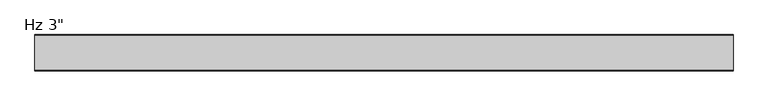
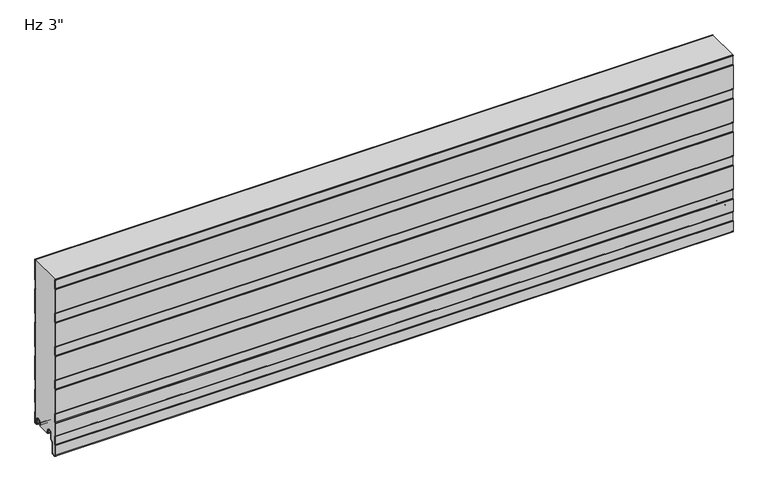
"""IFC4 building model written with IfcOpenShell, lengths in millimetres: plate geometry."""

from ifc_helpers import new_model, si_unit, point, frame, frame_2d, origin, place, context, project, spatial, polyline, circle_curve, trimmed, segment, composite_curve, outline, extrude, source, transform, mapped, element, save
from ifc_brep_helpers import plane_surface, cylinder_surface, revolved_surface, advanced_brep


def plate_820d1cbb(model_context):
    return source(origin(), model_context, "Body", "SolidModel", [
        extrude(outline(composite_curve([segment(trimmed(circle_curve(frame_2d((-74.7998717, -10.6415934)), 1.3998661), [point((-76.1997378, -10.6415934))], [point((-75.7324955, -9.5976403))], False, "CARTESIAN"), True, "CONTINUOUS"), segment(polyline([(-75.7324955, -9.5976403), (-74.9997693, -8.8649141), (-74.9997693, 10.0260713), (-75.7327349, 10.7590369)]), True, "CONTINUOUS"), segment(trimmed(circle_curve(frame_2d((-74.8000237, 11.8030877)), 1.3999972), [point((-75.7327349, 10.7590369))], [point((-76.2, 11.810741))], False, "CARTESIAN"), True, "CONTINUOUS"), segment(polyline([(-76.2, 11.810741), (-76.2, 40.1582542)]), True, "CONTINUOUS"), segment(trimmed(circle_curve(frame_2d((-74.8000028, 40.1582542)), 1.3999972), [point((-76.2, 40.1582542))], [point((-75.732714, 41.202305))], False, "CARTESIAN"), True, "CONTINUOUS"), segment(polyline([(-75.732714, 41.202305), (-74.9997693, 41.9352497), (-74.9997693, 60.8259189), (-75.7327349, 61.5588845)]), True, "CONTINUOUS"), segment(trimmed(circle_curve(frame_2d((-74.8000237, 62.6029353)), 1.3999972), [point((-75.7327349, 61.5588845))], [point((-76.2, 62.6105886))], False, "CARTESIAN"), True, "CONTINUOUS"), segment(polyline([(-76.2, 62.6105886), (-76.2, 116.3581018)]), True, "CONTINUOUS"), segment(trimmed(circle_curve(frame_2d((-74.8000028, 116.3581018)), 1.3999972), [point((-76.2, 116.3581018))], [point((-75.732714, 117.4021526))], False, "CARTESIAN"), True, "CONTINUOUS"), segment(polyline([(-75.732714, 117.4021526), (-74.9997693, 118.1350973), (-74.9997693, 137.0257665), (-75.7327349, 137.7587321)]), True, "CONTINUOUS"), segment(trimmed(circle_curve(frame_2d((-74.8000237, 138.8027829)), 1.3999972), [point((-75.7327349, 137.7587321))], [point((-76.2, 138.8104362))], False, "CARTESIAN"), True, "CONTINUOUS"), segment(polyline([(-76.2, 138.8104362), (-76.2, 192.5579494)]), True, "CONTINUOUS"), segment(trimmed(circle_curve(frame_2d((-74.8000028, 192.5579494)), 1.3999972), [point((-76.2, 192.5579494))], [point((-75.732714, 193.6020002))], False, "CARTESIAN"), True, "CONTINUOUS"), segment(polyline([(-75.732714, 193.6020002), (-74.9997693, 194.3349449), (-74.9997693, 213.2256141), (-75.7327349, 213.9585797)]), True, "CONTINUOUS"), segment(trimmed(circle_curve(frame_2d((-74.8000237, 215.0026305)), 1.3999972), [point((-75.7327349, 213.9585797))], [point((-76.2, 215.0102838))], False, "CARTESIAN"), True, "CONTINUOUS"), segment(polyline([(-76.2, 215.0102838), (-76.2, 268.757797)]), True, "CONTINUOUS"), segment(trimmed(circle_curve(frame_2d((-74.8000028, 268.757797)), 1.3999972), [point((-76.2, 268.757797))], [point((-75.732714, 269.8018478))], False, "CARTESIAN"), True, "CONTINUOUS"), segment(polyline([(-75.732714, 269.8018478), (-74.9997693, 270.5347925), (-74.9997693, 289.4254617), (-75.7327349, 290.1584273)]), True, "CONTINUOUS"), segment(trimmed(circle_curve(frame_2d((-74.8000237, 291.2024781)), 1.3999972), [point((-75.7327349, 290.1584273))], [point((-76.2, 291.2101314))], False, "CARTESIAN"), True, "CONTINUOUS"), segment(polyline([(-76.2, 291.2101314), (-76.2, 344.9576446)]), True, "CONTINUOUS"), segment(trimmed(circle_curve(frame_2d((-74.8000028, 344.9576446)), 1.3999972), [point((-76.2, 344.9576446))], [point((-75.732714, 346.0016954))], False, "CARTESIAN"), True, "CONTINUOUS"), segment(polyline([(-75.732714, 346.0016954), (-74.9997693, 346.7346401), (-74.9997693, 365.6253093), (-75.7327349, 366.3582749)]), True, "CONTINUOUS"), segment(trimmed(circle_curve(frame_2d((-74.8000237, 367.4023257)), 1.3999972), [point((-75.7327349, 366.3582749))], [point((-76.2, 367.409979))], False, "CARTESIAN"), True, "CONTINUOUS"), segment(polyline([(-76.2, 367.409979), (-76.2, 368.0), (-75.2, 368.0), (-75.2, 367.240544), (-73.9997693, 366.0403133), (-73.9997693, 346.3209008), (-75.2, 345.1206701), (-75.2, 291.0405383), (-73.9997693, 289.8403076), (-73.9997693, 270.1208951), (-75.2, 268.9206644), (-75.2, 214.8405326), (-73.9997693, 213.6403019), (-73.9997693, 193.9208894), (-75.2, 192.7206587), (-75.2, 138.6405269), (-73.9997693, 137.4402962), (-73.9997693, 117.7208837), (-75.2, 116.520653), (-75.2, 62.4405213), (-73.9997693, 61.2402905), (-73.9997693, 41.520878), (-75.2, 40.3206473), (-75.2, 11.6405156), (-73.9997693, 10.4402849), (-73.9997693, -9.2791277), (-75.1997378, -10.4790962), (-75.1997378, -32.4521176)]), True, "CONTINUOUS"), segment(trimmed(circle_curve(frame_2d((-72.6294985, -32.4521176)), 2.5702393), [point((-75.1997378, -32.4521176))], [point((-72.4054129, -35.0125699))], True, "CARTESIAN"), True, "CONTINUOUS"), segment(polyline([(-72.4054129, -35.0125699), (-67.423592, -34.5765709)]), True, "CONTINUOUS"), segment(trimmed(circle_curve(frame_2d((-67.9049826, -31.9198392)), 2.6999926), [point((-67.423592, -34.5765709))], [point((-65.20499, -31.9198392))], True, "CARTESIAN"), True, "CONTINUOUS"), segment(polyline([(-65.20499, -31.9198392), (-65.20499, -9.8247096), (-59.7029189, -4.3226385)]), True, "CONTINUOUS"), segment(trimmed(circle_curve(frame_2d((-60.9049966, -3.1205608)), 1.6999946), [point((-59.7029189, -4.3226385))], [point((-59.205002, -3.1205608))], True, "CARTESIAN"), True, "CONTINUOUS"), segment(polyline([(-59.205002, -3.1205608), (-59.205002, 8.6903283)]), True, "CONTINUOUS"), segment(trimmed(circle_curve(frame_2d((-55.8550067, 8.6903283)), 3.3499953), [point((-59.205002, 8.6903283))], [point((-55.8550067, 12.0403236))], False, "CARTESIAN"), True, "CONTINUOUS"), segment(polyline([(-55.8550067, 12.0403236), (-51.4550155, 12.0403236)]), True, "CONTINUOUS"), segment(trimmed(circle_curve(frame_2d((-51.4550155, 8.6903283)), 3.3499953), [point((-51.4550155, 12.0403236))], [point((-48.1050202, 8.6903283))], False, "CARTESIAN"), True, "CONTINUOUS"), segment(polyline([(-48.1050202, 8.6903283), (-48.1050202, 5.9912173), (-46.7065413, 5.9912173), (-46.7065413, 2.2328239)]), True, "CONTINUOUS"), segment(trimmed(circle_curve(frame_2d((-47.906538, 2.2313092)), 1.1999976), [point((-46.7065413, 2.2328239))], [point((-47.8760161, 1.0316999))], False, "CARTESIAN"), True, "CONTINUOUS"), segment(trimmed(circle_curve(frame_2d((-47.906538, 2.2313092)), 1.1999976), [point((-47.8760161, 1.0316999))], [point((-49.1050202, 2.1710221))], False, "CARTESIAN"), True, "CONTINUOUS"), segment(polyline([(-49.1050202, 2.1710221), (-49.1050202, 8.6903283)]), True, "CONTINUOUS"), segment(trimmed(circle_curve(frame_2d((-51.4550155, 8.6903283)), 2.3499953), [point((-49.1050202, 8.6903283))], [point((-51.4550155, 11.0403236))], True, "CARTESIAN"), True, "CONTINUOUS"), segment(polyline([(-51.4550155, 11.0403236), (-55.8550067, 11.0403236)]), True, "CONTINUOUS"), segment(trimmed(circle_curve(frame_2d((-55.8550067, 8.6903283)), 2.3499953), [point((-55.8550067, 11.0403236))], [point((-58.205002, 8.6903283))], True, "CARTESIAN"), True, "CONTINUOUS"), segment(polyline([(-58.205002, 8.6903283), (-58.205002, -3.1205608)]), True, "CONTINUOUS"), segment(trimmed(circle_curve(frame_2d((-60.9049966, -3.1205608)), 2.6999946), [point((-58.205002, -3.1205608))], [point((-58.9958121, -5.0297453))], False, "CARTESIAN"), True, "CONTINUOUS"), segment(polyline([(-58.9958121, -5.0297453), (-63.8242296, -9.8581627)]), True, "CONTINUOUS"), segment(trimmed(circle_curve(frame_2d((-62.9049926, -10.7773997)), 1.2999974), [point((-63.8242296, -9.8581627))], [point((-64.20499, -10.7773997))], True, "CARTESIAN"), True, "CONTINUOUS"), segment(polyline([(-64.20499, -10.7773997), (-64.20499, -31.9198392)]), True, "CONTINUOUS"), segment(trimmed(circle_curve(frame_2d((-67.9049826, -31.9198392)), 3.6999926), [point((-64.20499, -31.9198392))], [point((-67.2941815, -35.5690675))], False, "CARTESIAN"), True, "CONTINUOUS"), segment(polyline([(-67.2941815, -35.5690675), (-72.3182281, -36.008762)]), True, "CONTINUOUS"), segment(trimmed(circle_curve(frame_2d((-72.6294985, -32.4521176)), 3.5702393), [point((-72.3182281, -36.008762))], [point((-76.1997378, -32.4521176))], False, "CARTESIAN"), True, "CONTINUOUS"), segment(polyline([(-76.1997378, -32.4521176), (-76.1997378, -10.6415934)]), True, "CONTINUOUS")], self_intersect=False)), frame((-730.0, 0.0, 0.0), z_axis=(1.0, 0.0, 0.0), x_axis=(0.0, 1.0, 0.0)), (0.0, 0.0, 1.0), 1460.0),
        advanced_brep(
        [(-730.0, -17.0015159, 2.0313088), (-730.0, -18.0015191, 1.0313115), (-730.0, -19.0015105, 2.0313088), (-730.0, -19.0015105, 6.0315124), (-730.0, -18.0015159, 6.0315124), (-730.0, -18.0015159, 8.7237222), (-730.0, -14.7015202, 12.0237179), (-730.0, -10.301529, 12.0237179), (-730.0, -7.0015335, 8.7237224), (-730.0, -7.0015335, -1.6962565), (-730.0, -5.2315393, -3.4662507), (-730.0, -0.9999916, -3.4662507), (-730.0, -0.9999916, 21.034026), (-730.0, -2.2002307, 22.4196686), (-730.0, -2.2002307, 41.7948349), (-730.0, -1.0, 43.1804678), (-730.0, -1.0, 71.8338832), (-730.0, -2.2002307, 73.2195162), (-730.0, -2.2002307, 92.5946825), (-730.0, -1.0, 93.9803154), (-730.0, -1.0, 148.0337308), (-730.0, -2.2002307, 149.4193638), (-730.0, -2.2002307, 168.7945301), (-730.0, -1.0, 170.180163), (-730.0, -1.0, 224.2335784), (-730.0, -2.2002307, 225.6192114), (-730.0, -2.2002307, 244.9943777), (-730.0, -1.0, 246.3800106), (-730.0, -1.0, 300.433426), (-730.0, -2.2002307, 301.819059), (-730.0, -2.2002307, 321.1942253), (-730.0, -1.0, 322.5798582), (-730.0, -1.0, 368.0), (-730.0, 0.0, 368.0), (-730.0, 0.0, 322.7290094), (-730.0, -0.3417885, 321.8123925), (-730.0, -1.2002307, 320.8213449), (-730.0, -1.2002307, 302.1919394), (-730.0, -0.3417885, 301.2008918), (-730.0, 0.0, 300.2842749), (-730.0, 0.0, 246.5291618), (-730.0, -0.3417885, 245.6125449), (-730.0, -1.2002307, 244.6214973), (-730.0, -1.2002307, 225.9920918), (-730.0, -0.3417885, 225.0010442), (-730.0, 0.0, 224.0844273), (-730.0, 0.0, 170.3293142), (-730.0, -0.3417885, 169.4126973), (-730.0, -1.2002307, 168.4216497), (-730.0, -1.2002307, 149.7922442), (-730.0, -0.3417885, 148.8011966), (-730.0, 0.0, 147.8845797), (-730.0, 0.0, 94.1294666), (-730.0, -0.3417885, 93.2128497), (-730.0, -1.2002307, 92.2218021), (-730.0, -1.2002307, 73.5923966), (-730.0, -0.3417885, 72.601349), (-730.0, 0.0, 71.6847321), (-730.0, 0.0, 43.329619), (-730.0, -0.3417885, 42.4130021), (-730.0, -1.2002307, 41.4219545), (-730.0, -1.2002307, 22.792549), (-730.0, -0.3417885, 21.8015014), (-730.0, 0.0, 20.8847931), (-730.0, 8.4e-06, -3.0662545), (-730.0, -1.3999878, -4.4662507), (-730.0, -5.2315393, -4.4662507), (-730.0, -8.0015335, -1.6962565), (-730.0, -8.0015335, 8.7237224), (-730.0, -10.301529, 11.0237179), (-730.0, -14.7015202, 11.0237179), (-730.0, -17.0015159, 8.7237222), (730.0, -17.0015159, 2.0313088), (730.0, -17.0015159, 8.7237222), (730.0, -14.7015202, 11.0237179), (730.0, -10.301529, 11.0237179), (730.0, -8.0015335, 8.7237224), (730.0, -8.0015335, -1.6962565), (730.0, -5.2315393, -4.4662507), (730.0, -1.3999878, -4.4662507), (730.0, 8.4e-06, -3.0662545), (730.0, 8.4e-06, 20.8848845), (730.0, -0.3417885, 21.8015014), (730.0, -1.2002307, 22.792549), (730.0, -1.2002307, 41.4219545), (730.0, -0.3417885, 42.4130021), (730.0, 0.0, 43.329619), (730.0, 0.0, 71.6847321), (730.0, -0.3417885, 72.601349), (730.0, -1.2002307, 73.5923966), (730.0, -1.2002307, 92.2218021), (730.0, -0.3417885, 93.2128497), (730.0, 0.0, 94.1294666), (730.0, 0.0, 147.8845797), (730.0, -0.3417885, 148.8011966), (730.0, -1.2002307, 149.7922442), (730.0, -1.2002307, 168.4216497), (730.0, -0.3417885, 169.4126973), (730.0, 0.0, 170.3293142), (730.0, 0.0, 224.0844273), (730.0, -0.3417885, 225.0010442), (730.0, -1.2002307, 225.9920918), (730.0, -1.2002307, 244.6214973), (730.0, -0.3417885, 245.6125449), (730.0, 0.0, 246.5291618), (730.0, 0.0, 300.2842749), (730.0, -0.3417885, 301.2008918), (730.0, -1.2002307, 302.1919394), (730.0, -1.2002307, 320.8213449), (730.0, -0.3417885, 321.8123925), (730.0, 0.0, 322.7290094), (730.0, 0.0, 368.0), (730.0, -1.0, 368.0), (730.0, -1.0, 322.5798582), (730.0, -2.2002307, 321.1942253), (730.0, -2.2002307, 301.819059), (730.0, -1.0, 300.433426), (730.0, -1.0, 246.3800106), (730.0, -2.2002307, 244.9943777), (730.0, -2.2002307, 225.6192114), (730.0, -1.0, 224.2335784), (730.0, -1.0, 170.180163), (730.0, -2.2002307, 168.7945301), (730.0, -2.2002307, 149.4193638), (730.0, -1.0, 148.0337308), (730.0, -1.0, 93.9803154), (730.0, -2.2002307, 92.5946825), (730.0, -2.2002307, 73.2195162), (730.0, -1.0, 71.8338832), (730.0, -1.0, 43.1804678), (730.0, -2.2002307, 41.7948349), (730.0, -2.2002307, 22.4196686), (730.0, -0.9999916, 21.034026), (730.0, -0.9999916, -3.4662507), (730.0, -5.2315393, -3.4662507), (730.0, -7.0015335, -1.6962565), (730.0, -7.0015335, 8.7237224), (730.0, -10.301529, 12.0237179), (730.0, -14.7015202, 12.0237179), (730.0, -18.0015159, 8.7237222), (730.0, -18.0015159, 6.0315124), (730.0, -19.0015105, 6.0315124), (730.0, -19.0015105, 2.0313088), (730.0, -18.0015192, 1.0313116)],
        [
            (0, 1, circle_curve(frame((-730.0, -18.0015132, 2.0313088), z_axis=(-1.0, 0.0, 0.0), x_axis=(0.0, 0.0, 1.0)), 0.9999973)),
            (1, 2, circle_curve(frame((-730.0, -18.0015133, 2.0313088), z_axis=(-1.0, 0.0, 0.0), x_axis=(0.0, 0.0, 1.0)), 0.9999972)),
            (2, 3),
            (3, 4),
            (4, 5),
            (5, 6, circle_curve(frame((-730.0, -14.7015202, 8.7237222), z_axis=(-1.0, 0.0, 0.0), x_axis=(0.0, 0.0, 1.0)), 3.2999957)),
            (6, 7),
            (7, 8, circle_curve(frame((-730.0, -10.301529, 8.7237224), z_axis=(-1.0, 0.0, 0.0), x_axis=(0.0, 0.0, 1.0)), 3.2999955)),
            (8, 9),
            (9, 10, circle_curve(frame((-730.0, -5.2315393, -1.6962565), z_axis=(1.0, 0.0, 0.0), x_axis=(0.0, 0.0, 1.0)), 1.7699942)),
            (10, 11),
            (11, 12),
            (12, 13),
            (13, 14),
            (14, 15),
            (15, 16),
            (16, 17),
            (17, 18),
            (18, 19),
            (19, 20),
            (20, 21),
            (21, 22),
            (22, 23),
            (23, 24),
            (24, 25),
            (25, 26),
            (26, 27),
            (27, 28),
            (28, 29),
            (29, 30),
            (30, 31),
            (31, 32),
            (32, 33),
            (33, 34),
            (34, 35, circle_curve(frame((-730.0, -1.3999972, 322.7290094), z_axis=(-1.0, 0.0, 0.0), x_axis=(0.0, 0.0, 1.0)), 1.3999972)),
            (35, 36),
            (36, 37),
            (37, 38),
            (38, 39, circle_curve(frame((-730.0, -1.3999972, 300.2842749), z_axis=(-1.0, 0.0, 0.0), x_axis=(0.0, 0.0, 1.0)), 1.3999972)),
            (39, 40),
            (40, 41, circle_curve(frame((-730.0, -1.3999972, 246.5291618), z_axis=(-1.0, 0.0, 0.0), x_axis=(0.0, 0.0, 1.0)), 1.3999972)),
            (41, 42),
            (42, 43),
            (43, 44),
            (44, 45, circle_curve(frame((-730.0, -1.3999972, 224.0844273), z_axis=(-1.0, 0.0, 0.0), x_axis=(0.0, 0.0, 1.0)), 1.3999972)),
            (45, 46),
            (46, 47, circle_curve(frame((-730.0, -1.3999972, 170.3293142), z_axis=(-1.0, 0.0, 0.0), x_axis=(0.0, 0.0, 1.0)), 1.3999972)),
            (47, 48),
            (48, 49),
            (49, 50),
            (50, 51, circle_curve(frame((-730.0, -1.3999972, 147.8845797), z_axis=(-1.0, 0.0, 0.0), x_axis=(0.0, 0.0, 1.0)), 1.3999972)),
            (51, 52),
            (52, 53, circle_curve(frame((-730.0, -1.3999972, 94.1294666), z_axis=(-1.0, 0.0, 0.0), x_axis=(0.0, 0.0, 1.0)), 1.3999972)),
            (53, 54),
            (54, 55),
            (55, 56),
            (56, 57, circle_curve(frame((-730.0, -1.3999972, 71.6847321), z_axis=(-1.0, 0.0, 0.0), x_axis=(0.0, 0.0, 1.0)), 1.3999972)),
            (57, 58),
            (58, 59, circle_curve(frame((-730.0, -1.3999972, 43.329619), z_axis=(-1.0, 0.0, 0.0), x_axis=(0.0, 0.0, 1.0)), 1.3999972)),
            (59, 60),
            (60, 61),
            (61, 62),
            (62, 63, circle_curve(frame((-730.0, -1.3999972, 20.8848845), z_axis=(-1.0, 0.0, 0.0), x_axis=(0.0, 0.0, 1.0)), 1.3999972)),
            (63, 64),
            (64, 65, circle_curve(frame((-730.0, -1.3999878, -3.0662545), z_axis=(-1.0, 0.0, 0.0), x_axis=(0.0, 0.0, 1.0)), 1.3999962)),
            (65, 66),
            (66, 67, circle_curve(frame((-730.0, -5.2315393, -1.6962565), z_axis=(-1.0, 0.0, 0.0), x_axis=(0.0, 0.0, 1.0)), 2.7699942)),
            (67, 68),
            (68, 69, circle_curve(frame((-730.0, -10.301529, 8.7237224), z_axis=(1.0, 0.0, 0.0), x_axis=(0.0, 0.0, 1.0)), 2.2999955)),
            (69, 70),
            (70, 71, circle_curve(frame((-730.0, -14.7015202, 8.7237222), z_axis=(1.0, 0.0, 0.0), x_axis=(0.0, 0.0, 1.0)), 2.2999957)),
            (71, 0),
            (72, 73),
            (73, 74, circle_curve(frame((730.0, -14.7015202, 8.7237222), z_axis=(-1.0, 0.0, 0.0), x_axis=(0.0, 0.0, 1.0)), 2.2999957)),
            (74, 75),
            (75, 76, circle_curve(frame((730.0, -10.301529, 8.7237224), z_axis=(-1.0, 0.0, 0.0), x_axis=(0.0, 0.0, 1.0)), 2.2999955)),
            (76, 77),
            (77, 78, circle_curve(frame((730.0, -5.2315393, -1.6962565), z_axis=(1.0, 0.0, 0.0), x_axis=(0.0, 0.0, 1.0)), 2.7699942)),
            (78, 79),
            (79, 80, circle_curve(frame((730.0, -1.3999878, -3.0662545), z_axis=(1.0, 0.0, 0.0), x_axis=(0.0, 0.0, 1.0)), 1.3999962)),
            (80, 81),
            (81, 82, circle_curve(frame((730.0, -1.3999972, 20.8848845), z_axis=(1.0, 0.0, 0.0), x_axis=(0.0, 0.0, 1.0)), 1.3999972)),
            (82, 83),
            (83, 84),
            (84, 85),
            (85, 86, circle_curve(frame((730.0, -1.3999972, 43.329619), z_axis=(1.0, 0.0, 0.0), x_axis=(0.0, 0.0, 1.0)), 1.3999972)),
            (86, 87),
            (87, 88, circle_curve(frame((730.0, -1.3999972, 71.6847321), z_axis=(1.0, 0.0, 0.0), x_axis=(0.0, 0.0, 1.0)), 1.3999972)),
            (88, 89),
            (89, 90),
            (90, 91),
            (91, 92, circle_curve(frame((730.0, -1.3999972, 94.1294666), z_axis=(1.0, 0.0, 0.0), x_axis=(0.0, 0.0, 1.0)), 1.3999972)),
            (92, 93),
            (93, 94, circle_curve(frame((730.0, -1.3999972, 147.8845797), z_axis=(1.0, 0.0, 0.0), x_axis=(0.0, 0.0, 1.0)), 1.3999972)),
            (94, 95),
            (95, 96),
            (96, 97),
            (97, 98, circle_curve(frame((730.0, -1.3999972, 170.3293142), z_axis=(1.0, 0.0, 0.0), x_axis=(0.0, 0.0, 1.0)), 1.3999972)),
            (98, 99),
            (99, 100, circle_curve(frame((730.0, -1.3999972, 224.0844273), z_axis=(1.0, 0.0, 0.0), x_axis=(0.0, 0.0, 1.0)), 1.3999972)),
            (100, 101),
            (101, 102),
            (102, 103),
            (103, 104, circle_curve(frame((730.0, -1.3999972, 246.5291618), z_axis=(1.0, 0.0, 0.0), x_axis=(0.0, 0.0, 1.0)), 1.3999972)),
            (104, 105),
            (105, 106, circle_curve(frame((730.0, -1.3999972, 300.2842749), z_axis=(1.0, 0.0, 0.0), x_axis=(0.0, 0.0, 1.0)), 1.3999972)),
            (106, 107),
            (107, 108),
            (108, 109),
            (109, 110, circle_curve(frame((730.0, -1.3999972, 322.7290094), z_axis=(1.0, 0.0, 0.0), x_axis=(0.0, 0.0, 1.0)), 1.3999972)),
            (110, 111),
            (111, 112),
            (112, 113),
            (113, 114),
            (114, 115),
            (115, 116),
            (116, 117),
            (117, 118),
            (118, 119),
            (119, 120),
            (120, 121),
            (121, 122),
            (122, 123),
            (123, 124),
            (124, 125),
            (125, 126),
            (126, 127),
            (127, 128),
            (128, 129),
            (129, 130),
            (130, 131),
            (131, 132),
            (132, 133),
            (133, 134),
            (134, 135, circle_curve(frame((730.0, -5.2315393, -1.6962565), z_axis=(-1.0, 0.0, 0.0), x_axis=(0.0, 0.0, 1.0)), 1.7699942)),
            (135, 136),
            (136, 137, circle_curve(frame((730.0, -10.301529, 8.7237224), z_axis=(1.0, 0.0, 0.0), x_axis=(0.0, 0.0, 1.0)), 3.2999955)),
            (137, 138),
            (138, 139, circle_curve(frame((730.0, -14.7015202, 8.7237222), z_axis=(1.0, 0.0, 0.0), x_axis=(0.0, 0.0, 1.0)), 3.2999957)),
            (139, 140),
            (140, 141),
            (141, 142),
            (142, 143, circle_curve(frame((730.0, -18.0015133, 2.0313088), z_axis=(1.0, 0.0, 0.0), x_axis=(0.0, 0.0, 1.0)), 0.9999972)),
            (143, 72, circle_curve(frame((730.0, -18.0015132, 2.0313088), z_axis=(1.0, 0.0, 0.0), x_axis=(0.0, 0.0, 1.0)), 0.9999973)),
            (32, 112),
            (111, 33),
            (67, 77),
            (76, 68),
            (0, 72),
            (143, 1),
            (71, 73),
            (70, 74),
            (75, 69),
            (65, 79),
            (78, 66),
            (64, 80),
            (63, 81),
            (2, 142),
            (141, 3),
            (56, 88),
            (87, 57),
            (61, 83),
            (82, 62),
            (60, 84),
            (58, 86),
            (85, 59),
            (50, 94),
            (93, 51),
            (54, 90),
            (89, 55),
            (52, 92),
            (91, 53),
            (44, 100),
            (99, 45),
            (48, 96),
            (95, 49),
            (46, 98),
            (97, 47),
            (38, 106),
            (105, 39),
            (42, 102),
            (101, 43),
            (40, 104),
            (103, 41),
            (36, 108),
            (107, 37),
            (34, 110),
            (109, 35),
            (27, 117),
            (116, 28),
            (115, 29),
            (114, 30),
            (113, 31),
            (26, 118),
            (25, 119),
            (24, 120),
            (23, 121),
            (22, 122),
            (21, 123),
            (20, 124),
            (19, 125),
            (18, 126),
            (17, 127),
            (16, 128),
            (15, 129),
            (14, 130),
            (140, 4),
            (139, 5),
            (138, 6),
            (137, 7),
            (136, 8),
            (135, 9),
            (12, 132),
            (131, 13),
            (11, 133),
            (10, 134),
        ],
        [
            plane_surface(frame((-730.0, 0.0, 508.0), z_axis=(-1.0, 0.0, 0.0), x_axis=(0.0, 1.0, 0.0))),
            plane_surface(frame((730.0, 0.0, 508.0), z_axis=(1.0, 0.0, 0.0), x_axis=(0.0, 1.0, 0.0))),
            plane_surface(frame((730.0, 10.0, 368.0), z_axis=(0.0, 0.0, 1.0), x_axis=(-1.0, 0.0, 0.0))),
            plane_surface(frame((-730.0, -8.0015335, 8.7237224), z_axis=(0.0, -1.0, 0.0), x_axis=(1.0, 0.0, 0.0))),
            cylinder_surface(frame((-730.0, -18.0015132, 2.0313088), z_axis=(-1.0, 0.0, 0.0), x_axis=(0.0, 0.0, 1.0)), 0.9999973),
            plane_surface(frame((-730.0, -17.0015159, 2.0313088), z_axis=(0.0, 1.0, 0.0), x_axis=(1.0, 0.0, 0.0))),
            revolved_surface(polyline([(730.0, -14.7015202, 11.0237179), (-730.0, -14.7015202, 11.0237179)]), (-730.0, -14.7015202, 8.7237222), (1.0, 0.0, 0.0)),
            revolved_surface(polyline([(730.0, -10.301529, 11.0237179), (-730.0, -10.301529, 11.0237179)]), (-730.0, -10.301529, 8.7237224), (1.0, 0.0, 0.0)),
            plane_surface(frame((-730.0, -14.7015202, 11.0237179), z_axis=(0.0, 0.0, -1.0), x_axis=(1.0, 0.0, 0.0))),
            plane_surface(frame((-730.0, -5.2315393, -4.4662507), z_axis=(0.0, 0.0, -1.0), x_axis=(1.0, 0.0, 0.0))),
            cylinder_surface(frame((-730.0, -1.3999878, -3.0662545), z_axis=(-1.0, 0.0, 0.0), x_axis=(0.0, 0.0, 1.0)), 1.3999962),
            cylinder_surface(frame((-730.0, -5.2315393, -1.6962565), z_axis=(-1.0, 0.0, 0.0), x_axis=(0.0, 0.0, 1.0)), 2.7699942),
            plane_surface(frame((-730.0, 8.4e-06, -3.0662545), z_axis=(0.0, 1.0, 0.0), x_axis=(1.0, 0.0, 0.0))),
            plane_surface(frame((-730.0, -19.0015105, 6.0315124), z_axis=(0.0, -1.0, 0.0), x_axis=(1.0, 0.0, 0.0))),
            cylinder_surface(frame((-730.0, -18.0015133, 2.0313088), z_axis=(-1.0, 0.0, 0.0), x_axis=(0.0, 0.0, 1.0)), 0.9999972),
            cylinder_surface(frame((-730.0, -1.3999972, 71.6847321), z_axis=(-1.0, 0.0, 0.0), x_axis=(0.0, 0.0, 1.0)), 1.3999972),
            plane_surface(frame((-730.0, -0.3417885, 21.8015014), z_axis=(0.0, 0.755864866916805, 0.6547276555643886), x_axis=(1.0, 0.0, 0.0))),
            plane_surface(frame((-730.0, -1.2002307, 32.1072517), z_axis=(0.0, 1.0, 0.0), x_axis=(1.0, 0.0, 0.0))),
            cylinder_surface(frame((-730.0, -1.3999972, 20.8848845), z_axis=(-1.0, 0.0, 0.0), x_axis=(0.0, 0.0, 1.0)), 1.3999972),
            cylinder_surface(frame((-730.0, -1.3999972, 43.329619), z_axis=(-1.0, 0.0, 0.0), x_axis=(0.0, 0.0, 1.0)), 1.3999972),
            plane_surface(frame((-730.0, -1.2002307, 41.4219545), z_axis=(0.0, 0.755864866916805, -0.6547276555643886), x_axis=(1.0, 0.0, 0.0))),
            cylinder_surface(frame((-730.0, -1.3999972, 147.8845797), z_axis=(-1.0, 0.0, 0.0), x_axis=(0.0, 0.0, 1.0)), 1.3999972),
            plane_surface(frame((-730.0, -1.2002307, 82.9070993), z_axis=(0.0, 1.0, 0.0), x_axis=(1.0, 0.0, 0.0))),
            cylinder_surface(frame((-730.0, -1.3999972, 94.1294666), z_axis=(-1.0, 0.0, 0.0), x_axis=(0.0, 0.0, 1.0)), 1.3999972),
            plane_surface(frame((-730.0, -0.3417885, 72.601349), z_axis=(0.0, 0.755864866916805, 0.6547276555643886), x_axis=(1.0, 0.0, 0.0))),
            plane_surface(frame((-730.0, -1.2002307, 92.2218021), z_axis=(0.0, 0.755864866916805, -0.6547276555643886), x_axis=(1.0, 0.0, 0.0))),
            plane_surface(frame((-730.0, 0.0, 43.329619), z_axis=(0.0, 1.0, 0.0), x_axis=(1.0, 0.0, 0.0))),
            cylinder_surface(frame((-730.0, -1.3999972, 224.0844273), z_axis=(-1.0, 0.0, 0.0), x_axis=(0.0, 0.0, 1.0)), 1.3999972),
            plane_surface(frame((-730.0, -1.2002307, 159.1069469), z_axis=(0.0, 1.0, 0.0), x_axis=(1.0, 0.0, 0.0))),
            cylinder_surface(frame((-730.0, -1.3999972, 170.3293142), z_axis=(-1.0, 0.0, 0.0), x_axis=(0.0, 0.0, 1.0)), 1.3999972),
            plane_surface(frame((-730.0, -0.3417885, 148.8011966), z_axis=(0.0, 0.755864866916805, 0.6547276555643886), x_axis=(1.0, 0.0, 0.0))),
            plane_surface(frame((-730.0, -1.2002307, 168.4216497), z_axis=(0.0, 0.755864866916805, -0.6547276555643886), x_axis=(1.0, 0.0, 0.0))),
            plane_surface(frame((-730.0, 0.0, 94.1294666), z_axis=(0.0, 1.0, 0.0), x_axis=(1.0, 0.0, 0.0))),
            cylinder_surface(frame((-730.0, -1.3999972, 300.2842749), z_axis=(-1.0, 0.0, 0.0), x_axis=(0.0, 0.0, 1.0)), 1.3999972),
            plane_surface(frame((-730.0, -1.2002307, 235.3067945), z_axis=(0.0, 1.0, 0.0), x_axis=(1.0, 0.0, 0.0))),
            cylinder_surface(frame((-730.0, -1.3999972, 246.5291618), z_axis=(-1.0, 0.0, 0.0), x_axis=(0.0, 0.0, 1.0)), 1.3999972),
            plane_surface(frame((-730.0, -0.3417885, 225.0010442), z_axis=(0.0, 0.755864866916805, 0.6547276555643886), x_axis=(1.0, 0.0, 0.0))),
            plane_surface(frame((-730.0, -1.2002307, 244.6214973), z_axis=(0.0, 0.755864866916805, -0.6547276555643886), x_axis=(1.0, 0.0, 0.0))),
            plane_surface(frame((-730.0, 0.0, 170.3293142), z_axis=(0.0, 1.0, 0.0), x_axis=(1.0, 0.0, 0.0))),
            plane_surface(frame((-730.0, -1.2002307, 311.5066421), z_axis=(0.0, 1.0, 0.0), x_axis=(1.0, 0.0, 0.0))),
            cylinder_surface(frame((-730.0, -1.3999972, 322.7290094), z_axis=(-1.0, 0.0, 0.0), x_axis=(0.0, 0.0, 1.0)), 1.3999972),
            plane_surface(frame((-730.0, -0.3417885, 301.2008918), z_axis=(0.0, 0.755864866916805, 0.6547276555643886), x_axis=(1.0, 0.0, 0.0))),
            plane_surface(frame((-730.0, -1.2002307, 320.8213449), z_axis=(0.0, 0.755864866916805, -0.6547276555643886), x_axis=(1.0, 0.0, 0.0))),
            plane_surface(frame((-730.0, 0.0, 246.5291618), z_axis=(0.0, 1.0, 0.0), x_axis=(1.0, 0.0, 0.0))),
            plane_surface(frame((-730.0, 0.0, 322.7290094), z_axis=(0.0, 1.0, 0.0), x_axis=(1.0, 0.0, 0.0))),
            plane_surface(frame((-730.0, -1.0, 300.433426), z_axis=(0.0, -1.0, 0.0), x_axis=(1.0, 0.0, 0.0))),
            plane_surface(frame((-730.0, -2.2002307, 301.819059), z_axis=(0.0, -0.755864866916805, -0.6547276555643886), x_axis=(1.0, 0.0, 0.0))),
            plane_surface(frame((-730.0, -2.2002307, 321.1942253), z_axis=(0.0, -1.0, 0.0), x_axis=(1.0, 0.0, 0.0))),
            plane_surface(frame((-730.0, -1.0, 322.5798582), z_axis=(0.0, -0.755864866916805, 0.6547276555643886), x_axis=(1.0, 0.0, 0.0))),
            plane_surface(frame((-730.0, -1.0, 376.6332736), z_axis=(0.0, -1.0, 0.0), x_axis=(1.0, 0.0, 0.0))),
            plane_surface(frame((-730.0, -1.0, 246.3800106), z_axis=(0.0, -0.755864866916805, 0.6547276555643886), x_axis=(1.0, 0.0, 0.0))),
            plane_surface(frame((-730.0, -2.2002307, 244.9943777), z_axis=(0.0, -1.0, 0.0), x_axis=(1.0, 0.0, 0.0))),
            plane_surface(frame((-730.0, -2.2002307, 225.6192114), z_axis=(0.0, -0.755864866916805, -0.6547276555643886), x_axis=(1.0, 0.0, 0.0))),
            plane_surface(frame((-730.0, -1.0, 224.2335784), z_axis=(0.0, -1.0, 0.0), x_axis=(1.0, 0.0, 0.0))),
            plane_surface(frame((-730.0, -1.0, 170.180163), z_axis=(0.0, -0.755864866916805, 0.6547276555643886), x_axis=(1.0, 0.0, 0.0))),
            plane_surface(frame((-730.0, -2.2002307, 168.7945301), z_axis=(0.0, -1.0, 0.0), x_axis=(1.0, 0.0, 0.0))),
            plane_surface(frame((-730.0, -2.2002307, 149.4193638), z_axis=(0.0, -0.755864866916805, -0.6547276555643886), x_axis=(1.0, 0.0, 0.0))),
            plane_surface(frame((-730.0, -1.0, 148.0337308), z_axis=(0.0, -1.0, 0.0), x_axis=(1.0, 0.0, 0.0))),
            plane_surface(frame((-730.0, -1.0, 93.9803154), z_axis=(0.0, -0.755864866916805, 0.6547276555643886), x_axis=(1.0, 0.0, 0.0))),
            plane_surface(frame((-730.0, -2.2002307, 92.5946825), z_axis=(0.0, -1.0, 0.0), x_axis=(1.0, 0.0, 0.0))),
            plane_surface(frame((-730.0, -2.2002307, 73.2195162), z_axis=(0.0, -0.755864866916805, -0.6547276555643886), x_axis=(1.0, 0.0, 0.0))),
            plane_surface(frame((-730.0, -1.0, 71.8338832), z_axis=(0.0, -1.0, 0.0), x_axis=(1.0, 0.0, 0.0))),
            plane_surface(frame((-730.0, -1.0, 43.1804678), z_axis=(0.0, -0.755864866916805, 0.6547276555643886), x_axis=(1.0, 0.0, 0.0))),
            plane_surface(frame((-730.0, -18.0015159, 6.0315124), z_axis=(0.0, 0.0, 1.0), x_axis=(1.0, 0.0, 0.0))),
            plane_surface(frame((-730.0, -18.0015159, 8.7237222), z_axis=(0.0, -1.0, 0.0), x_axis=(1.0, 0.0, 0.0))),
            cylinder_surface(frame((-730.0, -14.7015202, 8.7237222), z_axis=(-1.0, 0.0, 0.0), x_axis=(0.0, 0.0, 1.0)), 3.2999957),
            plane_surface(frame((-730.0, -10.301529, 12.0237179), z_axis=(0.0, 0.0, 1.0), x_axis=(1.0, 0.0, 0.0))),
            cylinder_surface(frame((-730.0, -10.301529, 8.7237224), z_axis=(-1.0, 0.0, 0.0), x_axis=(0.0, 0.0, 1.0)), 3.2999955),
            plane_surface(frame((-730.0, -7.0015335, -1.6962565), z_axis=(0.0, 1.0, 0.0), x_axis=(1.0, 0.0, 0.0))),
            plane_surface(frame((-730.0, -2.2002307, 22.4196686), z_axis=(0.0, -0.755864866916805, -0.6547276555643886), x_axis=(1.0, 0.0, 0.0))),
            plane_surface(frame((-730.0, -2.2002307, 41.7948349), z_axis=(0.0, -1.0, 0.0), x_axis=(1.0, 0.0, 0.0))),
            plane_surface(frame((-730.0, -0.9999916, 21.034026), z_axis=(0.0, -1.0, 0.0), x_axis=(1.0, 0.0, 0.0))),
            plane_surface(frame((-730.0, -0.9999916, -3.4662507), z_axis=(0.0, 0.0, 1.0), x_axis=(1.0, 0.0, 0.0))),
            revolved_surface(polyline([(730.0, -5.2315393, 0.0737376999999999), (-730.0, -5.2315393, 0.0737376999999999)]), (-730.0, -5.2315393, -1.6962565), (1.0, 0.0, 0.0)),
        ],
        [
            (0, [[1, 2, 3, 4, 5, 6, 7, 8, 9, 10, 11, 12, 13, 14, 15, 16, 17, 18, 19, 20, 21, 22, 23, 24, 25, 26, 27, 28, 29, 30, 31, 32, 33, 34, 35, 36, 37, 38, 39, 40, 41, 42, 43, 44, 45, 46, 47, 48, 49, 50, 51, 52, 53, 54, 55, 56, 57, 58, 59, 60, 61, 62, 63, 64, 65, 66, 67, 68, 69, 70, 71, 72]]),
            (1, [[73, 74, 75, 76, 77, 78, 79, 80, 81, 82, 83, 84, 85, 86, 87, 88, 89, 90, 91, 92, 93, 94, 95, 96, 97, 98, 99, 100, 101, 102, 103, 104, 105, 106, 107, 108, 109, 110, 111, 112, 113, 114, 115, 116, 117, 118, 119, 120, 121, 122, 123, 124, 125, 126, 127, 128, 129, 130, 131, 132, 133, 134, 135, 136, 137, 138, 139, 140, 141, 142, 143, 144]]),
            (2, [[145, -112, 146, -33]]),
            (3, [[147, -77, 148, -68]]),
            (4, [[149, -144, 150, -1]]),
            (5, [[151, -73, -149, -72]]),
            (6, [[152, -74, -151, -71]]),
            (7, [[-148, -76, 153, -69]]),
            (8, [[-153, -75, -152, -70]]),
            (9, [[154, -79, 155, -66]]),
            (10, [[156, -80, -154, -65]]),
            (11, [[-155, -78, -147, -67]]),
            (12, [[157, -81, -156, -64]]),
            (13, [[158, -142, 159, -3]]),
            (14, [[-150, -143, -158, -2]]),
            (15, [[160, -88, 161, -57]]),
            (16, [[162, -83, 163, -62]]),
            (17, [[164, -84, -162, -61]]),
            (18, [[-163, -82, -157, -63]]),
            (19, [[165, -86, 166, -59]]),
            (20, [[-166, -85, -164, -60]]),
            (21, [[167, -94, 168, -51]]),
            (22, [[169, -90, 170, -55]]),
            (23, [[171, -92, 172, -53]]),
            (24, [[-170, -89, -160, -56]]),
            (25, [[-172, -91, -169, -54]]),
            (26, [[-161, -87, -165, -58]]),
            (27, [[173, -100, 174, -45]]),
            (28, [[175, -96, 176, -49]]),
            (29, [[177, -98, 178, -47]]),
            (30, [[-176, -95, -167, -50]]),
            (31, [[-178, -97, -175, -48]]),
            (32, [[-168, -93, -171, -52]]),
            (33, [[179, -106, 180, -39]]),
            (34, [[181, -102, 182, -43]]),
            (35, [[183, -104, 184, -41]]),
            (36, [[-182, -101, -173, -44]]),
            (37, [[-184, -103, -181, -42]]),
            (38, [[-174, -99, -177, -46]]),
            (39, [[185, -108, 186, -37]]),
            (40, [[187, -110, 188, -35]]),
            (41, [[-186, -107, -179, -38]]),
            (42, [[-188, -109, -185, -36]]),
            (43, [[-180, -105, -183, -40]]),
            (44, [[-34, -146, -111, -187]]),
            (45, [[189, -117, 190, -28]]),
            (46, [[-190, -116, 191, -29]]),
            (47, [[-191, -115, 192, -30]]),
            (48, [[-192, -114, 193, -31]]),
            (49, [[-113, -145, -32, -193]]),
            (50, [[194, -118, -189, -27]]),
            (51, [[195, -119, -194, -26]]),
            (52, [[196, -120, -195, -25]]),
            (53, [[197, -121, -196, -24]]),
            (54, [[198, -122, -197, -23]]),
            (55, [[199, -123, -198, -22]]),
            (56, [[200, -124, -199, -21]]),
            (57, [[201, -125, -200, -20]]),
            (58, [[202, -126, -201, -19]]),
            (59, [[203, -127, -202, -18]]),
            (60, [[204, -128, -203, -17]]),
            (61, [[205, -129, -204, -16]]),
            (62, [[206, -130, -205, -15]]),
            (63, [[-159, -141, 207, -4]]),
            (64, [[-207, -140, 208, -5]]),
            (65, [[-208, -139, 209, -6]]),
            (66, [[-209, -138, 210, -7]]),
            (67, [[-210, -137, 211, -8]]),
            (68, [[-211, -136, 212, -9]]),
            (69, [[213, -132, 214, -13]]),
            (70, [[-214, -131, -206, -14]]),
            (71, [[215, -133, -213, -12]]),
            (72, [[216, -134, -215, -11]]),
            (73, [[-212, -135, -216, -10]]),
        ],
    ),
        extrude(outline(composite_curve([segment(trimmed(circle_curve(frame_2d((-47.906538, 2.2313092)), 1.1999976), [point((-47.8760161, 1.0316999))], [point((-46.7065413, 2.2328239))], True, "CARTESIAN"), True, "CONTINUOUS"), segment(polyline([(-46.7065413, 2.2328239), (-46.7065413, 5.9912173), (-48.1050202, 5.9912173), (-48.1050202, 8.6903283)]), True, "CONTINUOUS"), segment(trimmed(circle_curve(frame_2d((-51.4550155, 8.6903283)), 3.3499953), [point((-48.1050202, 8.6903283))], [point((-51.4550155, 12.0403236))], True, "CARTESIAN"), True, "CONTINUOUS"), segment(polyline([(-51.4550155, 12.0403236), (-55.8550067, 12.0403236)]), True, "CONTINUOUS"), segment(trimmed(circle_curve(frame_2d((-55.8550067, 8.6903283)), 3.3499953), [point((-55.8550067, 12.0403236))], [point((-59.205002, 8.6903283))], True, "CARTESIAN"), True, "CONTINUOUS"), segment(polyline([(-59.205002, 8.6903283), (-59.205002, -3.1205608)]), True, "CONTINUOUS"), segment(trimmed(circle_curve(frame_2d((-60.9049966, -3.1205608)), 1.6999946), [point((-59.205002, -3.1205608))], [point((-59.7029189, -4.3226385))], False, "CARTESIAN"), True, "CONTINUOUS"), segment(polyline([(-59.7029189, -4.3226385), (-65.20499, -9.8247096), (-65.20499, -31.9198392)]), True, "CONTINUOUS"), segment(trimmed(circle_curve(frame_2d((-67.9049826, -31.9198392)), 2.6999926), [point((-65.20499, -31.9198392))], [point((-67.423592, -34.5765709))], False, "CARTESIAN"), True, "CONTINUOUS"), segment(polyline([(-67.423592, -34.5765709), (-72.4054129, -35.0125699)]), True, "CONTINUOUS"), segment(trimmed(circle_curve(frame_2d((-72.6294985, -32.4521176)), 2.5702393), [point((-72.4054129, -35.0125699))], [point((-75.1997378, -32.4521176))], False, "CARTESIAN"), True, "CONTINUOUS"), segment(polyline([(-75.1997378, -32.4521176), (-75.1997378, -10.4790962), (-73.9997693, -9.2791277), (-73.9997693, 10.4402849), (-75.2, 11.6405156), (-75.2, 40.3206473), (-73.9997693, 41.520878), (-73.9997693, 61.2402905), (-75.2, 62.4405213), (-75.2, 116.520653), (-73.9997693, 117.7208837), (-73.9997693, 137.4402962), (-75.2, 138.6405269), (-75.2, 192.7206587), (-73.9997693, 193.9208894), (-73.9997693, 213.6403019), (-75.2, 214.8405326), (-75.2, 268.9206644), (-73.9997693, 270.1208951), (-73.9997693, 289.8403076), (-75.2, 291.0405383), (-75.2, 345.1206701), (-73.9997693, 346.3209008), (-73.9997693, 366.0403133), (-75.2, 367.240544), (-75.2, 368.0), (-1.0, 368.0), (-1.0, 322.5798583), (-2.2002307, 321.1942253), (-2.2002307, 301.819059), (-1.0, 300.4334261), (-1.0, 246.3800107), (-2.2002307, 244.9943777), (-2.2002307, 225.6192114), (-1.0, 224.2335785), (-1.0, 170.1801631), (-2.2002307, 168.7945301), (-2.2002307, 149.4193638), (-1.0, 148.0337309), (-1.0, 93.9803155), (-2.2002307, 92.5946825), (-2.2002307, 73.2195162), (-1.0, 71.8338833), (-1.0, 43.1804679), (-2.2002307, 41.7948349), (-2.2002307, 22.4196686), (-0.9999916, 21.034026), (-0.9999916, -3.4662506), (-5.2315389, -3.4662506)]), True, "CONTINUOUS"), segment(trimmed(circle_curve(frame_2d((-5.2315389, -1.6962564)), 1.7699942), [point((-5.2315389, -3.4662506))], [point((-7.0015331, -1.6962564))], False, "CARTESIAN"), True, "CONTINUOUS"), segment(polyline([(-7.0015331, -1.6962564), (-7.0015331, 8.7237221)]), True, "CONTINUOUS"), segment(trimmed(circle_curve(frame_2d((-10.301529, 8.7237221)), 3.2999959), [point((-7.0015331, 8.7237221))], [point((-10.301529, 12.023718))], True, "CARTESIAN"), True, "CONTINUOUS"), segment(polyline([(-10.301529, 12.023718), (-14.7015202, 12.023718)]), True, "CONTINUOUS"), segment(trimmed(circle_curve(frame_2d((-14.7015202, 8.7237223)), 3.2999957), [point((-14.7015202, 12.023718))], [point((-18.0015159, 8.7237223))], True, "CARTESIAN"), True, "CONTINUOUS"), segment(polyline([(-18.0015159, 8.7237223), (-18.0015159, 6.0315125), (-19.0015105, 6.0315125), (-19.0015105, 2.0313088)]), True, "CONTINUOUS"), segment(trimmed(circle_curve(frame_2d((-18.0015133, 2.0313088)), 0.9999972), [point((-19.0015105, 2.0313088))], [point((-18.0015192, 1.0313116))], True, "CARTESIAN"), True, "CONTINUOUS"), segment(polyline([(-18.0015192, 1.0313116), (-19.0328308, 0.0), (-46.8443162, 0.0), (-47.8760161, 1.0316999)]), True, "CONTINUOUS")], self_intersect=False)), frame((-730.0, 0.0, 0.0), z_axis=(1.0, 0.0, 0.0), x_axis=(0.0, 1.0, 0.0)), (0.0, 0.0, 1.0), 1460.0),
    ])


if __name__ == "__main__":
    model = new_model("IFC4")
    model_context = context("Model", 3, world=origin())
    ifc_project = project(units=[si_unit("LENGTHUNIT", "METRE", prefix="MILLI")], contexts=[model_context])
    site = spatial("IfcSite", under=ifc_project)
    building = spatial("IfcBuilding", under=site)
    placement = place(None, origin())
    plate_shape = plate_820d1cbb(model_context)
    element("IfcPlate", 1, ObjectType="KIP-40-Karrier-KP-R19-CP-Hz-SL3-8in_SL : Hz 3\"", at=placement, inside=building, context=model_context, shape_type="MappedRepresentation", body=[
        mapped(plate_shape, transform((0.0, 0.0, 0.0), x_axis=(1.0, 0.0, 0.0), y_axis=(0.0, 1.0, 0.0), z_axis=(0.0, 0.0, 1.0))),
    ])
    save(model, "model.ifc")
